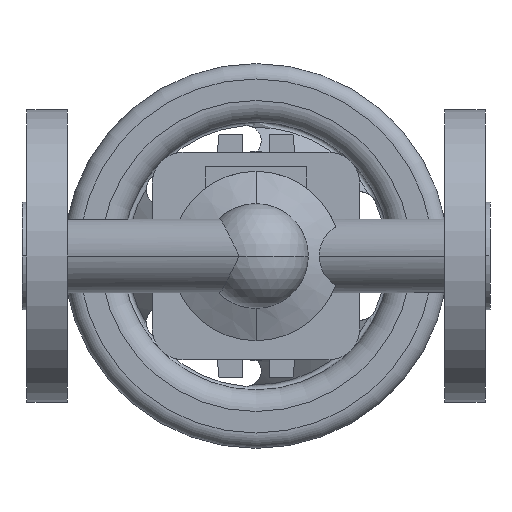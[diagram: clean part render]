
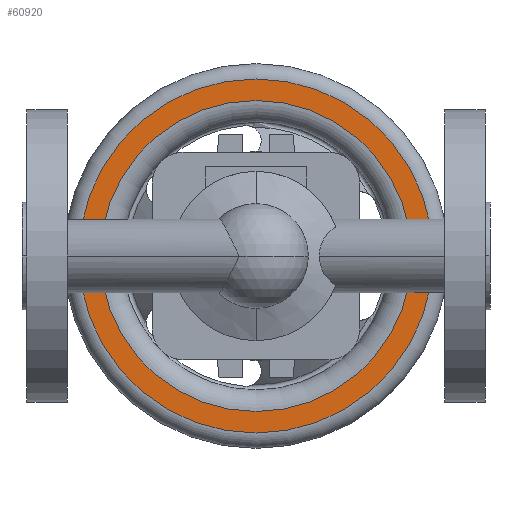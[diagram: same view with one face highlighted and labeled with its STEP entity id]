
A CAD part, front view. The second image highlights one B-rep face of the part: STEP entity #60920.
In plain terms, the highlighted planar face has unit normal (0, -1, 0).
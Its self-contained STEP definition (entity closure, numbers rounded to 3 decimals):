
#60270=CARTESIAN_POINT('',(133.5,202.8,0.));
#60280=VERTEX_POINT('',#60270);
#60370=CARTESIAN_POINT('',(18.5,202.8,0.));
#60380=VERTEX_POINT('',#60370);
#60410=CARTESIAN_POINT('',(76.,202.8,0.));
#60420=DIRECTION('',(0.,1.,0.));
#60430=DIRECTION('',(-1.,0.,0.));
#60440=AXIS2_PLACEMENT_3D('',#60410,#60420,#60430);
#60450=CIRCLE('',#60440,57.5);
#60460=CARTESIAN_POINT('',(76.,202.8,-57.5));
#60470=VERTEX_POINT('',#60460);
#60480=EDGE_CURVE('',#60470,#60380,#60450,.T.);
#60500=EDGE_CURVE('',#60280,#60470,#60450,.T.);
#60620=CARTESIAN_POINT('',(22.,202.8,0.));
#60630=DIRECTION('',(0.,-1.,0.));
#60640=DIRECTION('',(1.,0.,0.));
#60650=AXIS2_PLACEMENT_3D('',#60620,#60630,#60640);
#60660=PLANE('',#60650);
#60670=ORIENTED_EDGE('',*,*,#60480,.F.);
#60680=EDGE_CURVE('',#60380,#60280,#60450,.T.);
#60690=ORIENTED_EDGE('',*,*,#60680,.F.);
#60700=ORIENTED_EDGE('',*,*,#60500,.F.);
#60710=EDGE_LOOP('',(#60700,#60690,#60670));
#60720=FACE_OUTER_BOUND('',#60710,.T.);
#60730=CARTESIAN_POINT('',(76.,202.8,0.));
#60740=DIRECTION('',(0.,1.,0.));
#60750=DIRECTION('',(-1.,0.,0.));
#60760=AXIS2_PLACEMENT_3D('',#60730,#60740,#60750);
#60770=CIRCLE('',#60760,50.5);
#60780=CARTESIAN_POINT('',(126.5,202.8,0.));
#60790=VERTEX_POINT('',#60780);
#60800=CARTESIAN_POINT('',(25.5,202.8,0.));
#60810=VERTEX_POINT('',#60800);
#60820=EDGE_CURVE('',#60790,#60810,#60770,.T.);
#60830=ORIENTED_EDGE('',*,*,#60820,.T.);
#60840=CARTESIAN_POINT('',(76.,202.8,50.5));
#60850=VERTEX_POINT('',#60840);
#60860=EDGE_CURVE('',#60850,#60790,#60770,.T.);
#60870=ORIENTED_EDGE('',*,*,#60860,.T.);
#60880=EDGE_CURVE('',#60810,#60850,#60770,.T.);
#60890=ORIENTED_EDGE('',*,*,#60880,.T.);
#60900=EDGE_LOOP('',(#60890,#60870,#60830));
#60910=FACE_BOUND('',#60900,.T.);
#60920=ADVANCED_FACE('',(#60720,#60910),#60660,.T.);
